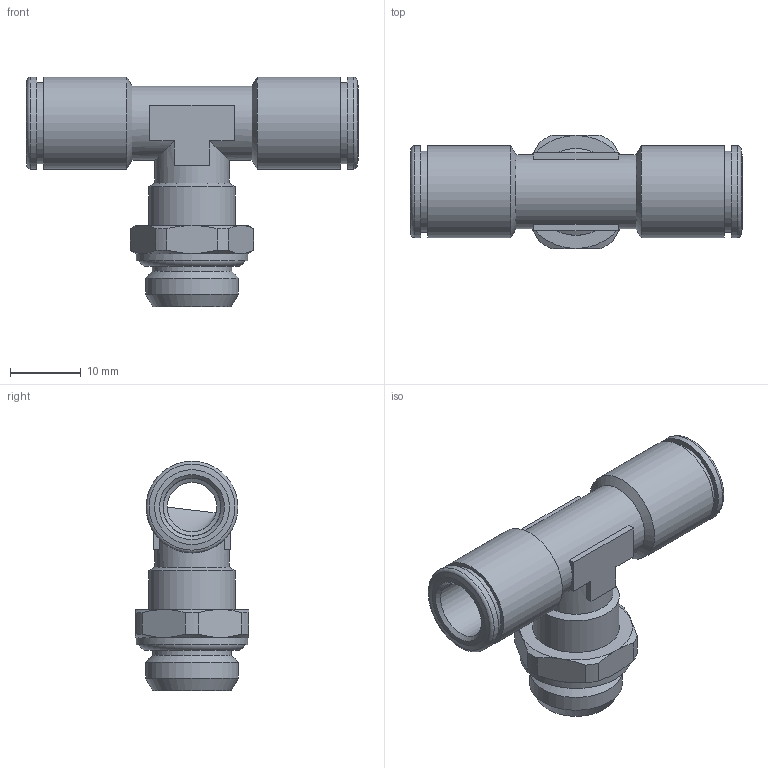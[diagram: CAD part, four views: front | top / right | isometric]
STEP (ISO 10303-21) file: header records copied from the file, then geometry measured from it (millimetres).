
FILE_DESCRIPTION(/* description */ (''),/* implementation_level */ '2;1');
FILE_NAME(/* name */ '202006-ES-I1-N2_STX020_8_G14_30.06.16',/* time_stamp */ '2016-06-30T11:39:54+02:00',/* author */ (''),/* organization */ (''),/* preprocessor_version */ 'ST-DEVELOPER v16.5',/* originating_system */ 'HiCAD 2016 2101.0 Build 254',/* authorisation */ '');
FILE_SCHEMA (('AUTOMOTIVE_DESIGN { 1 0 10303 214 1 1 1 1 }'));
Length unit declared in the file: millimetre
Products named in the file (6): Root; OR 11.11X1.78; 214603-1-N2; R202005-ES-N1-N2; DR8-1_NEU
Assembly tree (5 placements, depth 2):
  Root
    OR 11.11X1.78
    214603-1-N2
    R202005-ES-N1-N2
    DR8-1_NEU
    DR8-1_NEU
Bounding box: 47 x 16 x 32.5 mm (x, y, z)
Volume: 4481.6 mm3; surface area: 6887.1 mm2
Topology: 5 solids, 5 shells, 117 faces, 253 edges, 153 vertices
Faces by surface type: plane 42, cylinder 36, cone 34, torus 5
Full cylindrical faces by diameter (mm): 6 x1, 7 x2, 8.1 x2, 8.2 x2, 8.5 x1, 9 x2, 10.1 x4, 10.5 x2, 11 x2, 11.2 x1, 11.5 x2, 11.6 x2, 12.3 x1, 13 x4, 13.157 x1, 15.8 x1
Entity records: 4685 total; most frequent: DIRECTION 556, CARTESIAN_POINT 447, PRESENTATION_STYLE_ASSIGNMENT 361, COLOUR_RGB 358, DRAUGHTING_PRE_DEFINED_CURVE_FONT 356, CURVE_STYLE 356, OVER_RIDING_STYLED_ITEM 356, ORIENTED_EDGE 356
